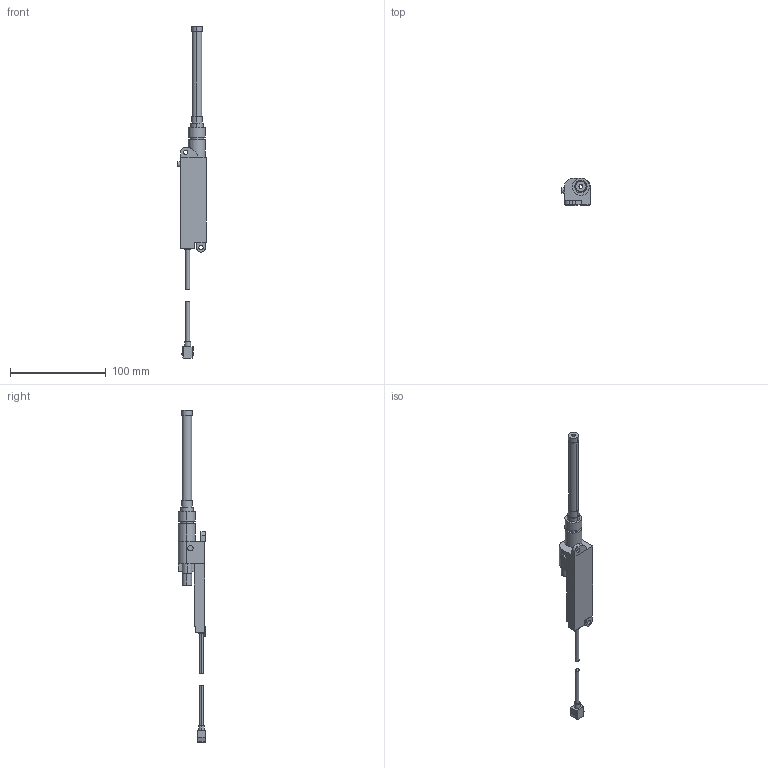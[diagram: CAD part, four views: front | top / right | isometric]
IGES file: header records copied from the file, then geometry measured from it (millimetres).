
Start section: SolidWorks IGES FILE using analytic representation for surfaces
Global section: file name: \\Intra-srv04\開発データ\CAD_Data\CAD委員会\3D電子ｶﾀﾛｸﾞ\製品カタログ（新）\0_IGES\ER-VS01(+ER-VAK10).IGS,41HSolidWorks 2004; native system: by SolidWorks Corporation; preprocessor: Version 5.3; author: YK0651; date: 050909.132738; units: millimetre
Bounding box: 29.8 x 28.6 x 347.2 mm (x, y, z)
Volume: 57967.5 mm3; surface area: 22621.4 mm2
Topology: 4 solids, 4 shells, 163 faces, 397 edges, 263 vertices
Faces by surface type: plane 94, revolution 69
